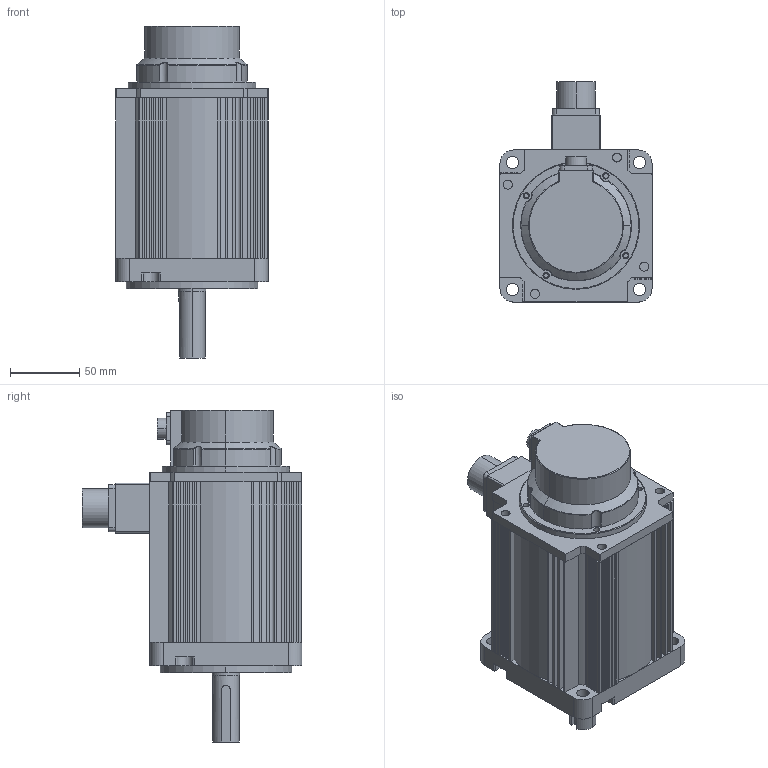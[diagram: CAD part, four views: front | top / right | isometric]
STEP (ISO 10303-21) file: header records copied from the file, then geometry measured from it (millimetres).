
FILE_DESCRIPTION (( 'STEP AP203' ), '1' );
FILE_NAME ('110A-075.STEP', '2024-09-10T11:52:52', ( '' ), ( '' ), 'SwSTEP 2.0', 'SolidWorks 2018', '' );
FILE_SCHEMA (( 'CONFIG_CONTROL_DESIGN' ));
Length unit declared in the file: millimetre
Products named in the file (10): 18-10; 諉盄釱; 110A綴欶; 蚐猾; 綴傷裔; ヶ傷裔; 蛌粣; 110A-075; SC-CMV1-R10P-E; 儂褲 -7.5
Assembly tree (9 placements, depth 2):
  110A-075
    110A綴欶
    18-10
    SC-CMV1-R10P-E
    綴傷裔
    諉盄釱
    ヶ傷裔
    蚐猾
    蛌粣
    儂褲 -7.5
Bounding box: 110 x 159 x 240 mm (x, y, z)
Volume: 627582.7 mm3; surface area: 281363.9 mm2
Topology: 9 solids, 9 shells, 770 faces, 2039 edges, 1322 vertices
Faces by surface type: plane 347, cylinder 341, cone 39, torus 22, sphere 16, bspline 5
Entity records: 25958 total; most frequent: CARTESIAN_POINT 5215, DIRECTION 4261, ORIENTED_EDGE 4018, EDGE_CURVE 2009, AXIS2_PLACEMENT_3D 1540, VERTEX_POINT 1314, LINE 1181, VECTOR 1181
